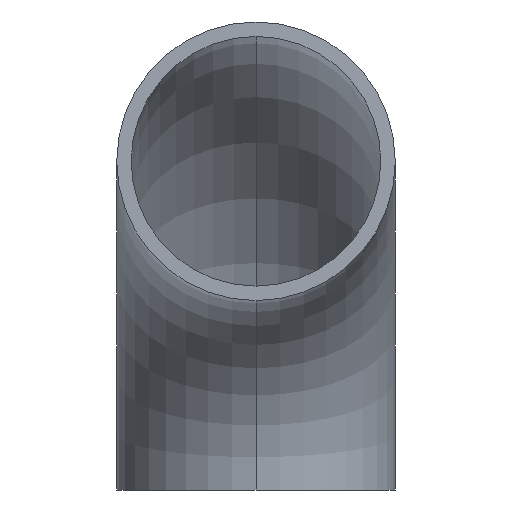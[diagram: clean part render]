
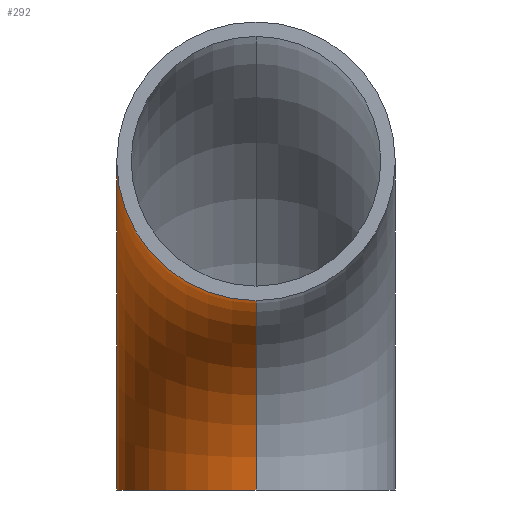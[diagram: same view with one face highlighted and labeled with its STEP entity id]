
A CAD part, front view. The second image highlights one B-rep face of the part: STEP entity #292.
In plain terms, the highlighted toroidal (fillet/blend) face has major radius 57 mm and minor radius 24.15 mm.
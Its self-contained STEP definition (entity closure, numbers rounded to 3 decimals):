
#2 = CARTESIAN_POINT ( 'NONE',  ( -85., 2096.85, 6218.85 ) ) ;
#3 = EDGE_CURVE ( 'NONE', #187, #233, #196, .T. ) ;
#17 = CARTESIAN_POINT ( 'NONE',  ( -85., 2064., 6218.85 ) ) ;
#22 = AXIS2_PLACEMENT_3D ( 'NONE', #156, #209, #251 ) ;
#31 = DIRECTION ( 'NONE',  ( -1., 0., 0. ) ) ;
#33 = CARTESIAN_POINT ( 'NONE',  ( -85., 2064., 6218.85 ) ) ;
#43 = CARTESIAN_POINT ( 'NONE',  ( -85., 2064., 6251.7 ) ) ;
#50 = ORIENTED_EDGE ( 'NONE', *, *, #3, .T. ) ;
#63 = AXIS2_PLACEMENT_3D ( 'NONE', #239, #216, #170 ) ;
#95 = VERTEX_POINT ( 'NONE', #299 ) ;
#98 = ORIENTED_EDGE ( 'NONE', *, *, #158, .F. ) ;
#116 = DIRECTION ( 'NONE',  ( -1., 0., 0. ) ) ;
#117 = EDGE_LOOP ( 'NONE', ( #159, #122, #50, #98 ) ) ;
#122 = ORIENTED_EDGE ( 'NONE', *, *, #247, .T. ) ;
#123 = VERTEX_POINT ( 'NONE', #43 ) ;
#126 = DIRECTION ( 'NONE',  ( 0., 0., 1. ) ) ;
#127 = DIRECTION ( 'NONE',  ( -1., 0., 0. ) ) ;
#132 = CIRCLE ( 'NONE', #22, 24.15 ) ;
#144 = CIRCLE ( 'NONE', #220, 81.15 ) ;
#152 = EDGE_CURVE ( 'NONE', #95, #123, #132, .T. ) ;
#156 = CARTESIAN_POINT ( 'NONE',  ( -85., 2064., 6275.85 ) ) ;
#158 = EDGE_CURVE ( 'NONE', #123, #233, #166, .T. ) ;
#159 = ORIENTED_EDGE ( 'NONE', *, *, #152, .F. ) ;
#166 = CIRCLE ( 'NONE', #192, 32.85 ) ;
#170 = DIRECTION ( 'NONE',  ( 0., -1., 0. ) ) ;
#187 = VERTEX_POINT ( 'NONE', #190 ) ;
#190 = CARTESIAN_POINT ( 'NONE',  ( -85., 2145.15, 6218.85 ) ) ;
#192 = AXIS2_PLACEMENT_3D ( 'NONE', #17, #116, #207 ) ;
#196 = CIRCLE ( 'NONE', #63, 24.15 ) ;
#207 = DIRECTION ( 'NONE',  ( 0., 0., 1. ) ) ;
#209 = DIRECTION ( 'NONE',  ( 0., -1., 0. ) ) ;
#215 = TOROIDAL_SURFACE ( 'NONE', #257, 57., 24.15 ) ;
#216 = DIRECTION ( 'NONE',  ( 0., 0., 1. ) ) ;
#217 = CARTESIAN_POINT ( 'NONE',  ( -85., 2064., 6218.85 ) ) ;
#220 = AXIS2_PLACEMENT_3D ( 'NONE', #33, #127, #126 ) ;
#233 = VERTEX_POINT ( 'NONE', #2 ) ;
#239 = CARTESIAN_POINT ( 'NONE',  ( -85., 2121., 6218.85 ) ) ;
#247 = EDGE_CURVE ( 'NONE', #95, #187, #144, .T. ) ;
#251 = DIRECTION ( 'NONE',  ( 0., 0., -1. ) ) ;
#257 = AXIS2_PLACEMENT_3D ( 'NONE', #217, #31, #295 ) ;
#267 = FACE_OUTER_BOUND ( 'NONE', #117, .T. ) ;
#292 = ADVANCED_FACE ( 'NONE', ( #267 ), #215, .T. ) ;
#295 = DIRECTION ( 'NONE',  ( 0., 0., 1. ) ) ;
#299 = CARTESIAN_POINT ( 'NONE',  ( -85., 2064., 6300. ) ) ;
